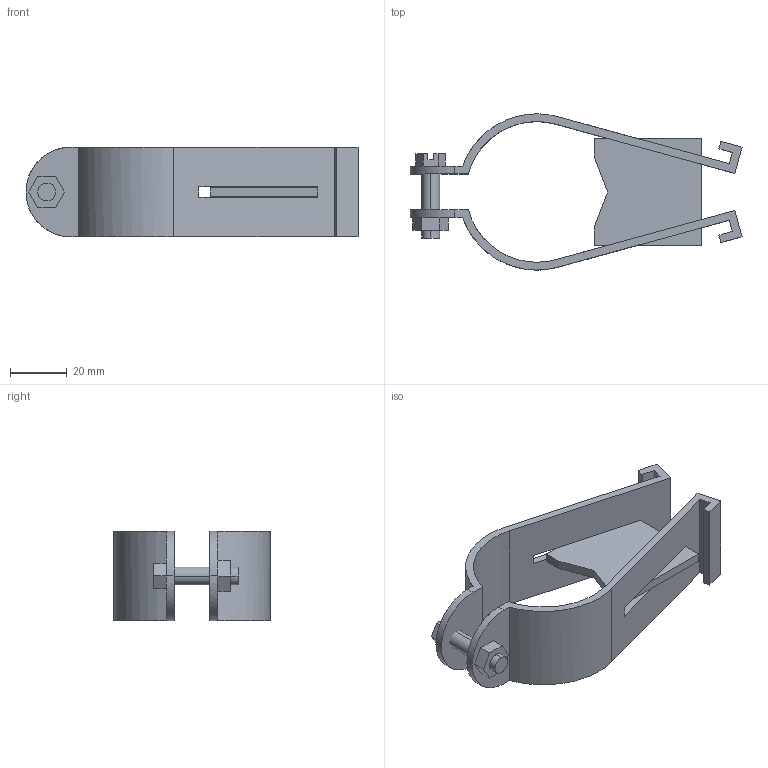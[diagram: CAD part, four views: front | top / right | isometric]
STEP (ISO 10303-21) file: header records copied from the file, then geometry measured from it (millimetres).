
FILE_DESCRIPTION(('TurboCAD Mac Pro'),'Build 980');
FILE_NAME('P1568.stp',' ',(''),(''),'ACIS Interop','IMSI','TurboCAD Mac Pro BY IMSI, INCORPORATED');
FILE_SCHEMA(('automotive_design'));
Length unit declared in the file: inch
Products named in the file (7): 1; 2; 3; 4; 5; 6; 7
Bounding box: 117.47 x 55.3 x 31.74 mm (x, y, z)
Volume: 28565.1 mm3; surface area: 23322.1 mm2
Topology: 6 solids, 6 shells, 79 faces, 201 edges, 134 vertices
Faces by surface type: plane 61, bspline 18
Entity records: 4275 total; most frequent: CARTESIAN_POINT 693, ORIENTED_EDGE 402, DIRECTION 307, STYLED_ITEM 270, PRESENTATION_STYLE_ASSIGNMENT 270, COLOUR_RGB 270, EDGE_CURVE 201, CURVE_STYLE 185
